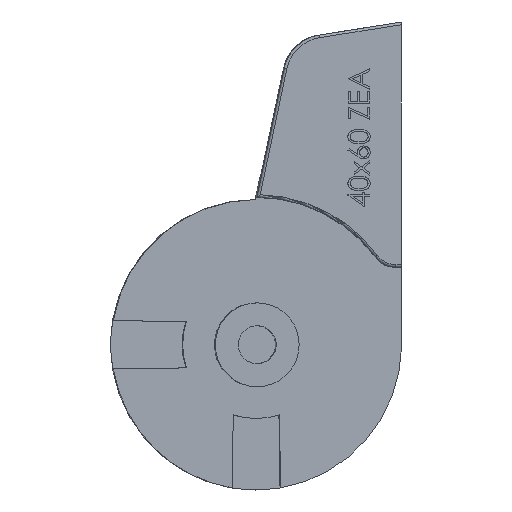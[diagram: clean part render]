
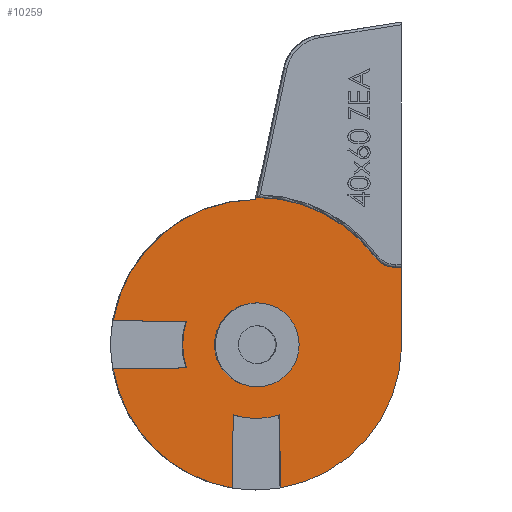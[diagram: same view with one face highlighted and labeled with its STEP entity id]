
A CAD part, left-side view. The second image highlights one B-rep face of the part: STEP entity #10259.
In plain terms, the highlighted planar face has unit normal (-0.999, -0.035, 0).
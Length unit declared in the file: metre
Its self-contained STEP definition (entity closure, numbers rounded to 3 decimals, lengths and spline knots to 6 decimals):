
#4029=CARTESIAN_POINT('',(-0.038452,-0.005162,0.071494));
#4030=DIRECTION('',(-0.999,-0.035,0.));
#4031=DIRECTION('',(0.,0.,1.));
#4032=AXIS2_PLACEMENT_3D('',#4029,#4030,#4031);
#4033=CIRCLE('',#4032,0.0079);
#4034=CARTESIAN_POINT('',(-0.038452,-0.005162,0.063594));
#4035=VERTEX_POINT('',#4034);
#4036=EDGE_CURVE('',#4035,#4035,#4033,.T.);
#4057=CARTESIAN_POINT('',(-0.038307,-0.009324,0.071555));
#4058=DIRECTION('',(0.001,-0.015,-1.));
#4059=VECTOR('',#4058,1.);
#4060=LINE('',#4057,#4059);
#4061=CARTESIAN_POINT('',(-0.0383,-0.009519,0.058295));
#4062=VERTEX_POINT('',#4061);
#4063=CARTESIAN_POINT('',(-0.038293,-0.009721,0.044496));
#4064=VERTEX_POINT('',#4063);
#4065=EDGE_CURVE('',#4062,#4064,#4060,.T.);
#4105=CARTESIAN_POINT('',(-0.038452,-0.005162,0.071494));
#4106=DIRECTION('',(-0.999,-0.035,0.));
#4107=DIRECTION('',(0.035,-0.999,0.));
#4108=AXIS2_PLACEMENT_3D('',#4105,#4106,#4107);
#4109=CIRCLE('',#4108,0.0139);
#4110=CARTESIAN_POINT('',(-0.038604,-0.000805,0.058295));
#4111=VERTEX_POINT('',#4110);
#4112=EDGE_CURVE('',#4111,#4062,#4109,.T.);
#4179=CARTESIAN_POINT('',(-0.038597,-0.001,0.071555));
#4180=DIRECTION('',(0.001,-0.015,1.));
#4181=VECTOR('',#4180,1.);
#4182=LINE('',#4179,#4181);
#4183=CARTESIAN_POINT('',(-0.038611,-0.000603,0.044496));
#4184=VERTEX_POINT('',#4183);
#4185=EDGE_CURVE('',#4184,#4111,#4182,.T.);
#4215=CARTESIAN_POINT('',(-0.038913,0.008029,0.067135));
#4216=VERTEX_POINT('',#4215);
#4233=CARTESIAN_POINT('',(-0.039394,0.021819,0.066932));
#4234=VERTEX_POINT('',#4233);
#4237=CARTESIAN_POINT('',(-0.03845,-0.005223,0.067329));
#4238=DIRECTION('',(-0.035,0.999,-0.015));
#4239=VECTOR('',#4238,1.);
#4240=LINE('',#4237,#4239);
#4241=EDGE_CURVE('',#4216,#4234,#4240,.T.);
#4361=CARTESIAN_POINT('',(-0.037538,-0.031339,0.086101));
#4362=VERTEX_POINT('',#4361);
#4380=CARTESIAN_POINT('',(-0.037674,-0.02745,0.088059));
#4381=VERTEX_POINT('',#4380);
#4384=CARTESIAN_POINT('',(-0.037538,-0.031339,0.090949));
#4385=DIRECTION('',(-0.999,-0.035,0.));
#4386=DIRECTION('',(0.035,-0.999,0.));
#4387=AXIS2_PLACEMENT_3D('',#4384,#4385,#4386);
#4388=CIRCLE('',#4387,0.004848);
#4389=EDGE_CURVE('',#4381,#4362,#4388,.T.);
#4421=CARTESIAN_POINT('',(-0.038453,-0.005137,0.099274));
#4422=VERTEX_POINT('',#4421);
#4425=CARTESIAN_POINT('',(-0.038452,-0.005162,0.071494));
#4426=DIRECTION('',(-0.999,-0.035,0.));
#4427=DIRECTION('',(0.035,-0.999,0.));
#4428=AXIS2_PLACEMENT_3D('',#4425,#4426,#4427);
#4429=CIRCLE('',#4428,0.02778);
#4430=EDGE_CURVE('',#4381,#4422,#4429,.T.);
#4475=CARTESIAN_POINT('',(-0.038456,-0.005052,0.098874));
#4476=VERTEX_POINT('',#4475);
#4479=CARTESIAN_POINT('',(-0.038819,0.005356,0.049743));
#4480=DIRECTION('',(0.007,-0.207,0.978));
#4481=VECTOR('',#4480,1.);
#4482=LINE('',#4479,#4481);
#4483=EDGE_CURVE('',#4476,#4422,#4482,.T.);
#10182=CARTESIAN_POINT('',(-0.037497,-0.03252,0.086101));
#10183=VERTEX_POINT('',#10182);
#10188=CARTESIAN_POINT('',(-0.037626,-0.028823,0.086101));
#10189=DIRECTION('',(-0.035,0.999,0.));
#10190=VECTOR('',#10189,1.);
#10191=LINE('',#10188,#10190);
#10192=EDGE_CURVE('',#10183,#4362,#10191,.T.);
#10205=CARTESIAN_POINT('',(-0.038452,-0.005162,0.071494));
#10206=DIRECTION('',(-0.999,-0.035,0.));
#10207=DIRECTION('',(0.,0.,1.));
#10208=AXIS2_PLACEMENT_3D('',#10205,#10206,#10207);
#10209=PLANE('',#10208);
#10210=CARTESIAN_POINT('',(-0.037497,-0.03252,0.071494));
#10211=DIRECTION('',(0.,0.,1.));
#10212=VECTOR('',#10211,1.);
#10213=LINE('',#10210,#10212);
#10214=CARTESIAN_POINT('',(-0.037497,-0.03252,0.070915));
#10215=VERTEX_POINT('',#10214);
#10216=EDGE_CURVE('',#10215,#10183,#10213,.T.);
#10217=ORIENTED_EDGE('',*,*,#10216,.T.);
#10218=ORIENTED_EDGE('',*,*,#10192,.T.);
#10219=ORIENTED_EDGE('',*,*,#4389,.F.);
#10220=ORIENTED_EDGE('',*,*,#4430,.T.);
#10221=ORIENTED_EDGE('',*,*,#4483,.F.);
#10222=CARTESIAN_POINT('',(-0.038452,-0.005162,0.071494));
#10223=DIRECTION('',(-0.999,-0.035,0.));
#10224=DIRECTION('',(0.035,-0.999,0.));
#10225=AXIS2_PLACEMENT_3D('',#10222,#10223,#10224);
#10226=CIRCLE('',#10225,0.02738);
#10227=CARTESIAN_POINT('',(-0.039394,0.021819,0.076056));
#10228=VERTEX_POINT('',#10227);
#10229=EDGE_CURVE('',#4476,#10228,#10226,.T.);
#10230=ORIENTED_EDGE('',*,*,#10229,.T.);
#10231=CARTESIAN_POINT('',(-0.03845,-0.005223,0.075658));
#10232=DIRECTION('',(0.035,-0.999,-0.015));
#10233=VECTOR('',#10232,1.);
#10234=LINE('',#10231,#10233);
#10235=CARTESIAN_POINT('',(-0.038913,0.008029,0.075853));
#10236=VERTEX_POINT('',#10235);
#10237=EDGE_CURVE('',#10228,#10236,#10234,.T.);
#10238=ORIENTED_EDGE('',*,*,#10237,.T.);
#10239=CARTESIAN_POINT('',(-0.038452,-0.005162,0.071494));
#10240=DIRECTION('',(-0.999,-0.035,0.));
#10241=DIRECTION('',(0.035,-0.999,0.));
#10242=AXIS2_PLACEMENT_3D('',#10239,#10240,#10241);
#10243=CIRCLE('',#10242,0.0139);
#10244=EDGE_CURVE('',#10236,#4216,#10243,.T.);
#10245=ORIENTED_EDGE('',*,*,#10244,.T.);
#10246=ORIENTED_EDGE('',*,*,#4241,.T.);
#10247=EDGE_CURVE('',#4234,#4184,#10226,.T.);
#10248=ORIENTED_EDGE('',*,*,#10247,.T.);
#10249=ORIENTED_EDGE('',*,*,#4185,.T.);
#10250=ORIENTED_EDGE('',*,*,#4112,.T.);
#10251=ORIENTED_EDGE('',*,*,#4065,.T.);
#10252=EDGE_CURVE('',#4064,#10215,#10226,.T.);
#10253=ORIENTED_EDGE('',*,*,#10252,.T.);
#10254=EDGE_LOOP('',(#10217,#10218,#10219,#10220,#10221,#10230,#10238,#10245,#10246,#10248,#10249,#10250,#10251,#10253));
#10255=FACE_BOUND('',#10254,.T.);
#10256=ORIENTED_EDGE('',*,*,#4036,.F.);
#10257=EDGE_LOOP('',(#10256));
#10258=FACE_BOUND('',#10257,.T.);
#10259=ADVANCED_FACE('',(#10255,#10258),#10209,.T.);
